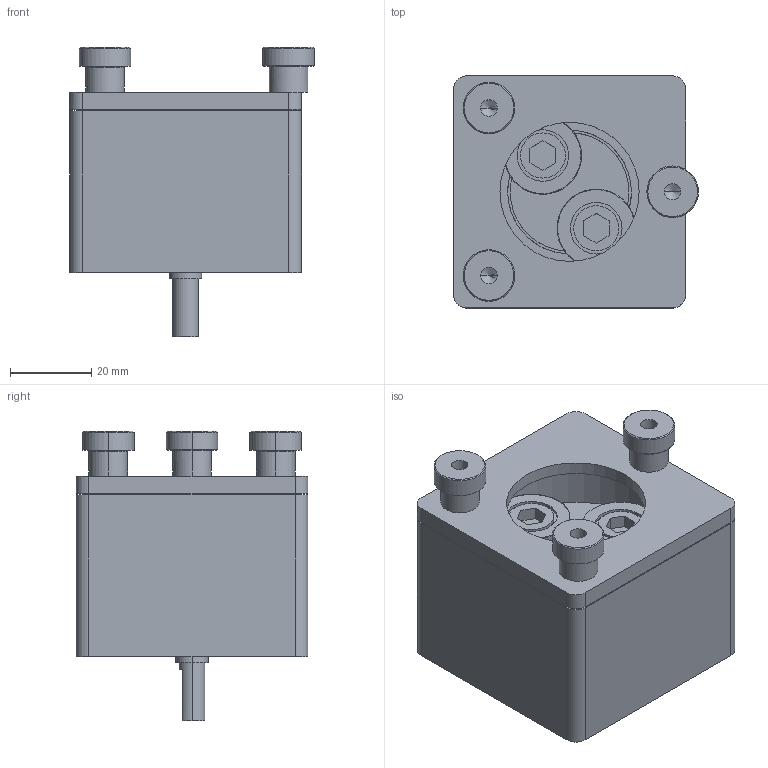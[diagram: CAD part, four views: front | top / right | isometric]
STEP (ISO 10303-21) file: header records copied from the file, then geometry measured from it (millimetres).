
FILE_DESCRIPTION (( 'STEP AP203' ), '1' );
FILE_NAME ('250-PHO.STEP', '2012-05-21T21:07:50', ( '' ), ( '' ), 'SwSTEP 2.0', 'SolidWorks 2012', '' );
FILE_SCHEMA (( 'CONFIG_CONTROL_DESIGN' ));
Length unit declared in the file: inch
Products named in the file (1): 250-PHO
Bounding box: 60.33 x 57.15 x 71.44 mm (x, y, z)
Volume: 128419.8 mm3; surface area: 28411.2 mm2
Topology: 1 solids, 1 shells, 181 faces, 440 edges, 273 vertices
Faces by surface type: plane 79, cylinder 72, cone 26, torus 4
Entity records: 5307 total; most frequent: DIRECTION 974, CARTESIAN_POINT 881, ORIENTED_EDGE 852, EDGE_CURVE 426, AXIS2_PLACEMENT_3D 366, VERTEX_POINT 273, LINE 242, VECTOR 242
